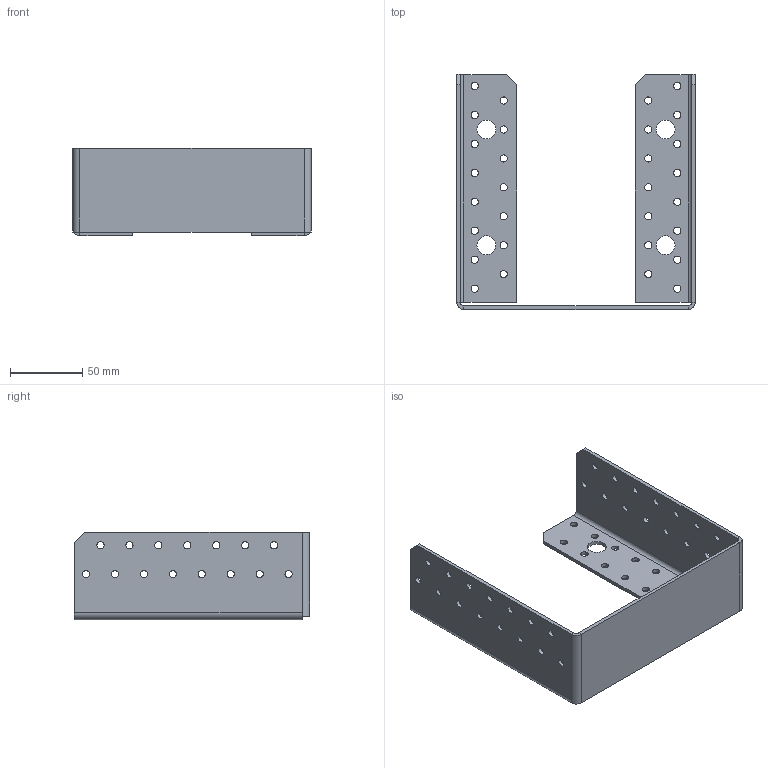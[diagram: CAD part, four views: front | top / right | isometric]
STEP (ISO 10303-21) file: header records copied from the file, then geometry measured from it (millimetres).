
FILE_DESCRIPTION (( 'STEP AP203' ), '1' );
FILE_NAME ('40516IKO.STEP', '2021-04-16T08:36:03', ( '' ), ( '' ), 'SwSTEP 2.0', 'SolidWorks 2013', '' );
FILE_SCHEMA (( 'CONFIG_CONTROL_DESIGN' ));
Length unit declared in the file: millimetre
Products named in the file (1): 40516IKO
Bounding box: 165 x 162.5 x 60.5 mm (x, y, z)
Volume: 96754.4 mm3; surface area: 83227.1 mm2
Topology: 1 solids, 1 shells, 172 faces, 480 edges, 310 vertices
Faces by surface type: cylinder 136, plane 36
Entity records: 5971 total; most frequent: DIRECTION 1100, CARTESIAN_POINT 963, ORIENTED_EDGE 960, EDGE_CURVE 480, AXIS2_PLACEMENT_3D 447, VERTEX_POINT 310, EDGE_LOOP 300, CIRCLE 274
